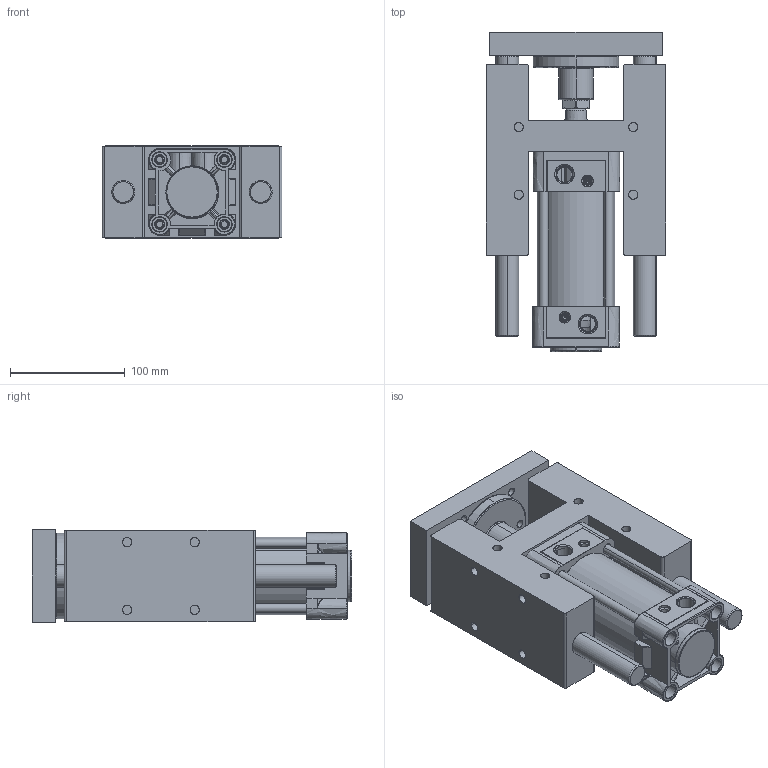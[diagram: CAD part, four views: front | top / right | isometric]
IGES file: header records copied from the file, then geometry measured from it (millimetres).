
Start section: SolidWorks IGES file using analytic representation for surfaces
Global section: file name: D:\ARICA 3D 禽Z軲LER\3D IGES\DNC-H\TDNC\63\TDNC63X50H-YATAK.IGS,1; native system: 5HSolidWorks 2013; preprocessor: SolidWorks 2013; author: user; date: 160518.163438; units: millimetre
Bounding box: 157 x 278.7 x 80.5 mm (x, y, z)
Surface area: 424271 mm2 (no closed solid volume)
Topology: 0 solids, 0 shells, 1026 faces, 18654 edges, 18644 vertices
Faces by surface type: revolution 611, bspline 415
